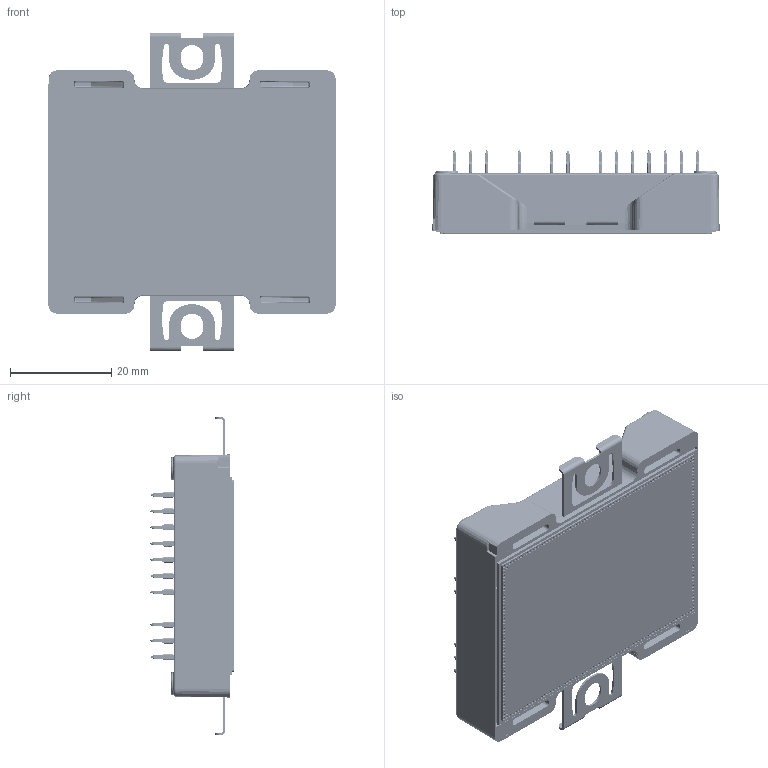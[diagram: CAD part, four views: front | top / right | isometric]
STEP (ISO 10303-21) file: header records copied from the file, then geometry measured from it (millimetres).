
FILE_DESCRIPTION (( 'STEP AP214' ), '1' );
FILE_NAME ('CAB008M12GM3T (2026-06-05).STEP', '2026-06-06T00:29:28', ( '' ), ( '' ), 'SwSTEP 2.0', 'SolidWorks 2025', '' );
FILE_SCHEMA (( 'AUTOMOTIVE_DESIGN' ));
Length unit declared in the file: millimetre
Products named in the file (1): CAB008M12GM3T (2026-06-05)
Bounding box: 56.7 x 16.4 x 62.8 mm (x, y, z)
Volume: 23625.9 mm3; surface area: 18039.8 mm2
Topology: 37 solids, 39 shells, 5555 faces, 13712 edges, 8558 vertices
Faces by surface type: cylinder 1805, plane 1554, bspline 1132, cone 1064
Entity records: 188467 total; most frequent: CARTESIAN_POINT 65336, ORIENTED_EDGE 27424, DIRECTION 23485, EDGE_CURVE 13712, AXIS2_PLACEMENT_3D 9014, VERTEX_POINT 8558, EDGE_LOOP 6218, FACE_OUTER_BOUND 5555
